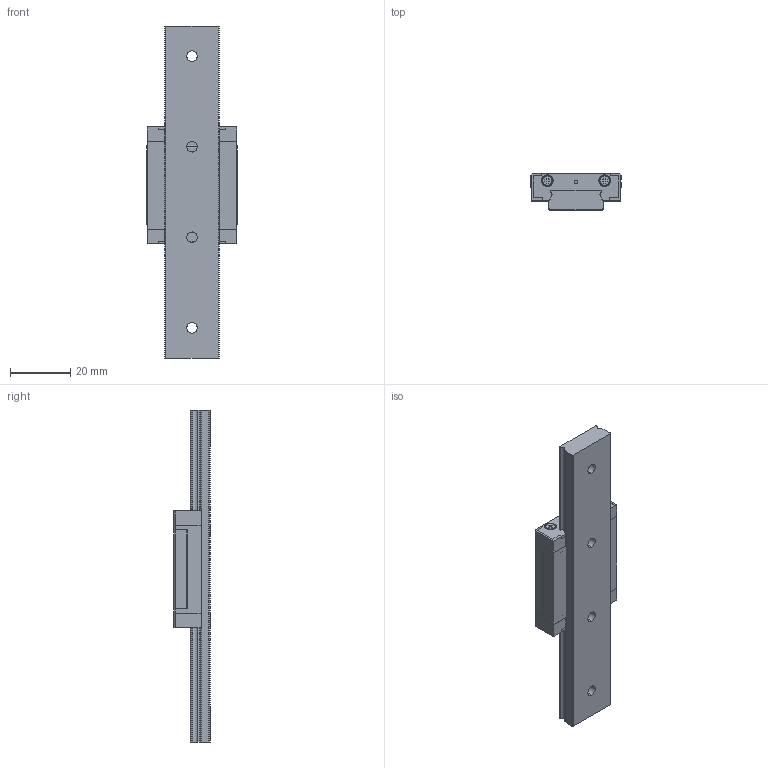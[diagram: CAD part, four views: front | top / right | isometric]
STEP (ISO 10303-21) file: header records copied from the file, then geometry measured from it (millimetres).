
FILE_DESCRIPTION (( 'STEP AP214' ), '1' );
FILE_NAME ('FBXX09WS-SS.STEP', '2022-08-06T21:53:23', ( 'JST' ), ( 'JST' ), 'SwSTEP 2.0', 'SolidWorks 2016', '' );
FILE_SCHEMA (( 'AUTOMOTIVE_DESIGN' ));
Length unit declared in the file: millimetre
Products named in the file (8): 09WS賑輸; 09W絳寢; M2蹟佪; 09WS傷裔; FBXX09WS-SS; 09WS-SS滅鳥; 09WS-SS賑輸; 09WS悜遠釱
Assembly tree (12 placements, depth 3):
  FBXX09WS-SS
    09W絳寢
    09WS-SS賑輸
      09WS傷裔  x2
      09WS悜遠釱
      09WS賑輸
      09WS-SS滅鳥  x2
      M2蹟佪  x4
Bounding box: 30 x 12 x 110 mm (x, y, z)
Volume: 19228.7 mm3; surface area: 13579.9 mm2
Topology: 11 solids, 11 shells, 540 faces, 1466 edges, 962 vertices
Faces by surface type: cylinder 251, plane 245, cone 24, bspline 20
Entity records: 13020 total; most frequent: CARTESIAN_POINT 4170, ORIENTED_EDGE 1536, DIRECTION 1480, EDGE_CURVE 768, LINE 506, VECTOR 506, VERTEX_POINT 504, AXIS2_PLACEMENT_3D 487
